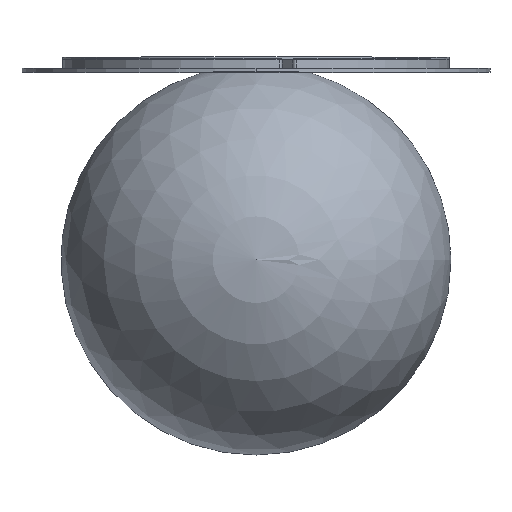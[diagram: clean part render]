
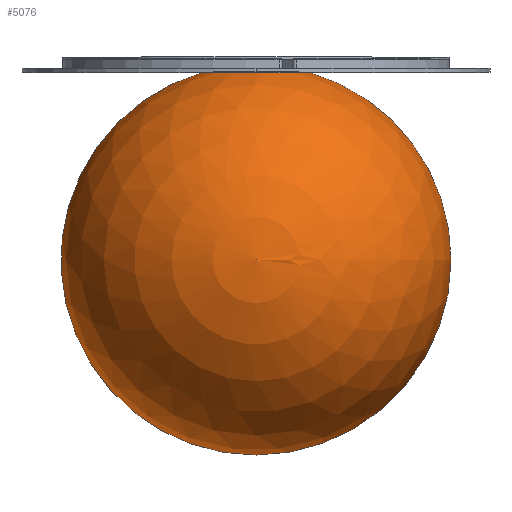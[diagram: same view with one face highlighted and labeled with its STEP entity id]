
A CAD part, top view. The second image highlights one B-rep face of the part: STEP entity #5076.
In plain terms, the highlighted spherical face has radius 125 mm.
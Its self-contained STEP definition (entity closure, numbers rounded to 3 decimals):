
#8 = CIRCLE ( 'NONE', #191, 125. ) ;
#22 = ORIENTED_EDGE ( 'NONE', *, *, #1309, .F. ) ;
#97 = DIRECTION ( 'NONE',  ( 1., 0., 0. ) ) ;
#138 = VERTEX_POINT ( 'NONE', #1664 ) ;
#181 = ORIENTED_EDGE ( 'NONE', *, *, #2838, .T. ) ;
#191 = AXIS2_PLACEMENT_3D ( 'NONE', #1614, #3465, #5666 ) ;
#416 = DIRECTION ( 'NONE',  ( 0., 1., 0. ) ) ;
#521 = CARTESIAN_POINT ( 'NONE',  ( 0., 0., 0. ) ) ;
#884 = DIRECTION ( 'NONE',  ( -1., 0., 0. ) ) ;
#1030 = SPHERICAL_SURFACE ( 'NONE', #1512, 125. ) ;
#1309 = EDGE_CURVE ( 'NONE', #3402, #4863, #8, .T. ) ;
#1512 = AXIS2_PLACEMENT_3D ( 'NONE', #5478, #2842, #97 ) ;
#1565 = AXIS2_PLACEMENT_3D ( 'NONE', #521, #1755, #2722 ) ;
#1614 = CARTESIAN_POINT ( 'NONE',  ( 0., 0., 0. ) ) ;
#1664 = CARTESIAN_POINT ( 'NONE',  ( 35., 120., 0. ) ) ;
#1755 = DIRECTION ( 'NONE',  ( 0., 0., 1. ) ) ;
#1777 = CARTESIAN_POINT ( 'NONE',  ( 0., -125., 0. ) ) ;
#1950 = CARTESIAN_POINT ( 'NONE',  ( -35., 120., 0. ) ) ;
#2595 = AXIS2_PLACEMENT_3D ( 'NONE', #3915, #416, #884 ) ;
#2722 = DIRECTION ( 'NONE',  ( 1., 0., 0. ) ) ;
#2822 = EDGE_LOOP ( 'NONE', ( #22, #181, #5412 ) ) ;
#2838 = EDGE_CURVE ( 'NONE', #3402, #138, #4278, .T. ) ;
#2842 = DIRECTION ( 'NONE',  ( 0., 0., -1. ) ) ;
#3402 = VERTEX_POINT ( 'NONE', #1777 ) ;
#3465 = DIRECTION ( 'NONE',  ( 0., 0., -1. ) ) ;
#3915 = CARTESIAN_POINT ( 'NONE',  ( 0., 120., 0. ) ) ;
#4042 = EDGE_CURVE ( 'NONE', #4863, #138, #5511, .T. ) ;
#4278 = CIRCLE ( 'NONE', #1565, 125. ) ;
#4863 = VERTEX_POINT ( 'NONE', #1950 ) ;
#5075 = FACE_OUTER_BOUND ( 'NONE', #2822, .T. ) ;
#5076 = ADVANCED_FACE ( 'NONE', ( #5075 ), #1030, .T. ) ;
#5412 = ORIENTED_EDGE ( 'NONE', *, *, #4042, .F. ) ;
#5478 = CARTESIAN_POINT ( 'NONE',  ( 0., 0., 0. ) ) ;
#5511 = CIRCLE ( 'NONE', #2595, 35. ) ;
#5666 = DIRECTION ( 'NONE',  ( -1., 0., 0. ) ) ;
